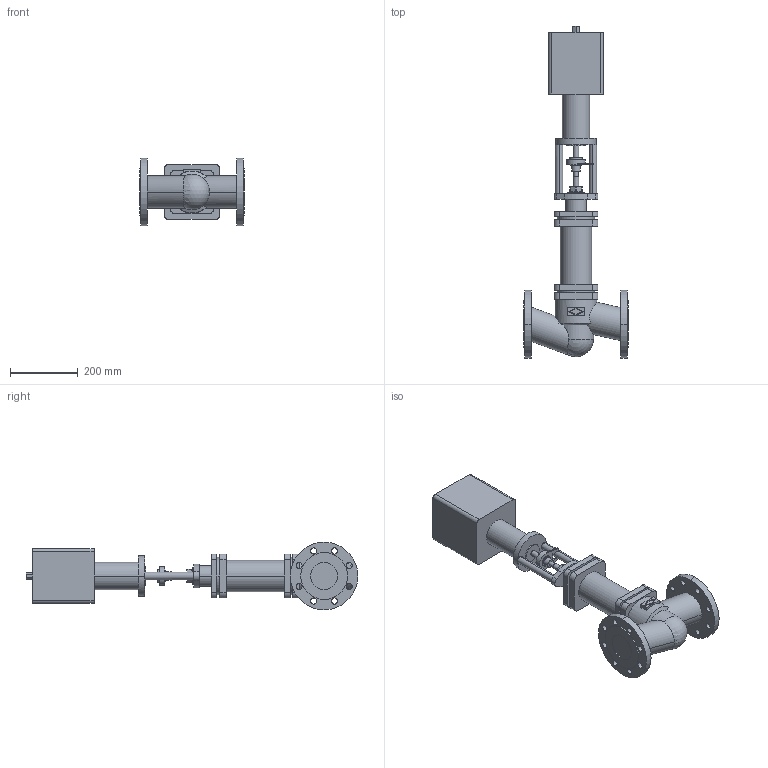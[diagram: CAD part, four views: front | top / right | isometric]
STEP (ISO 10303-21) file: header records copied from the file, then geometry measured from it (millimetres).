
FILE_DESCRIPTION( ( '' ), '1' );
FILE_NAME( 'F:/DE-SHS/TB/OR/04-Sonstiges/daten/files_3d/441-FR2.2/441-PN40-FR2_2/c000004570.stp', '2014-11-06T11:31:24', ( '' ), ( '' ), ' ', ' ', ' ' );
FILE_SCHEMA( ( 'CONFIG_CONTROL_DESIGN' ) );
Length unit declared in the file: millimetre
Products named in the file (2): 1; 2
Bounding box: 310 x 980.7 x 200 mm (x, y, z)
Volume: 12626742.3 mm3; surface area: 689486.9 mm2
Topology: 2 solids, 2 shells, 218 faces, 545 edges, 361 vertices
Faces by surface type: cylinder 118, plane 97, cone 2, sphere 1
Entity records: 7243 total; most frequent: CARTESIAN_POINT 1652, DIRECTION 1217, ORIENTED_EDGE 1086, EDGE_CURVE 543, AXIS2_PLACEMENT_3D 468, VERTEX_POINT 361, EDGE_LOOP 282, LINE 281
